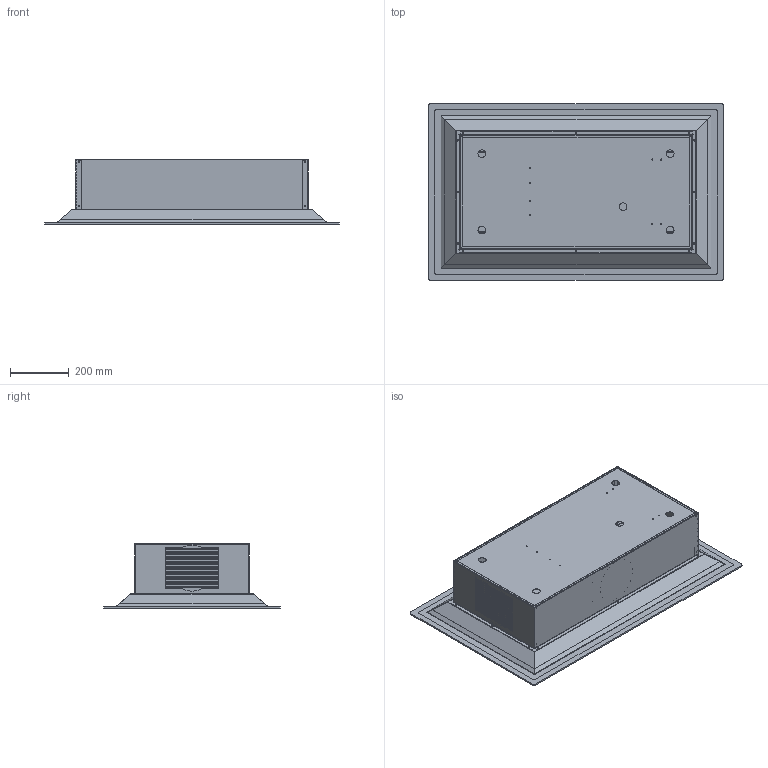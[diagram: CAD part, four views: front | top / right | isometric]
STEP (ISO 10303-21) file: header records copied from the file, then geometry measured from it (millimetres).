
FILE_DESCRIPTION(('STEP AP203'),'2;1');
FILE_NAME('Etoile_2014_11.stp','2014-11-16T17:16:49',(''),(''),'2012.1.115','THINKDESIGN','');
FILE_SCHEMA(('CONFIG_CONTROL_DESIGN'));
Bounding box: 1000 x 600 x 220.6 mm (x, y, z)
Volume: 6620385.5 mm3; surface area: 5229783.9 mm2
Topology: 18 solids, 18 shells, 2710 faces, 7160 edges, 4320 vertices
Faces by surface type: cylinder 1292, plane 1098, bspline 320
Entity records: 94695 total; most frequent: CARTESIAN_POINT 28166, ORIENTED_EDGE 14224, DIRECTION 13420, EDGE_CURVE 7112, AXIS2_PLACEMENT_3D 4658, VERTEX_POINT 4320, VECTOR 4104, LINE 4104
